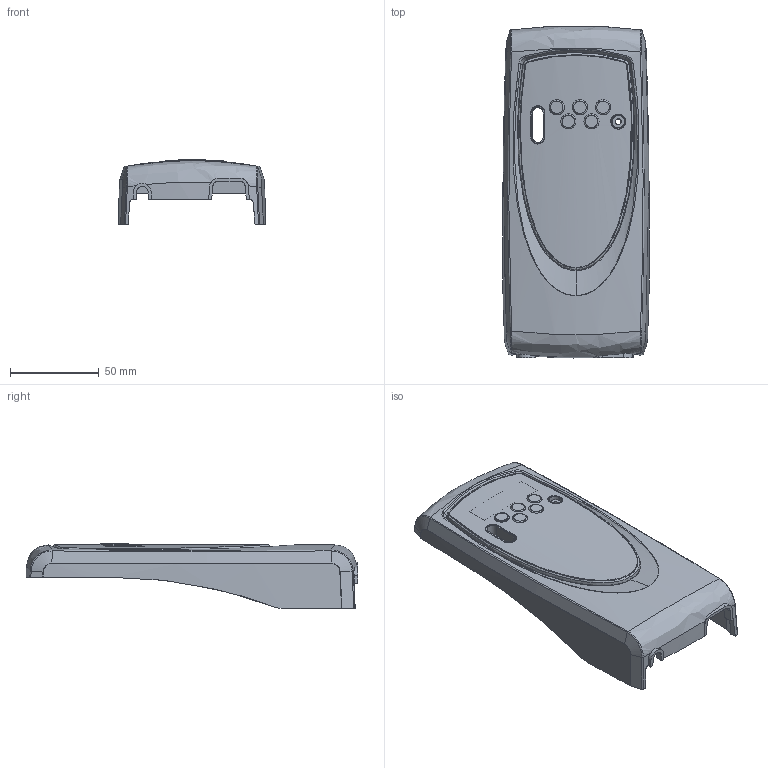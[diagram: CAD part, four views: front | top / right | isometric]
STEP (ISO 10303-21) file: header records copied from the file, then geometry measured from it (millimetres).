
FILE_DESCRIPTION((''),'2;1');
FILE_NAME('PK-SEQ-SK-B-FRONT-COVER','2006-12-19T',('summne01'),(''),'PRO/ENGINEER BY PARAMETRIC TECHNOLOGY CORPORATION, 2006320','PRO/ENGINEER BY PARAMETRIC TECHNOLOGY CORPORATION, 2006320','');
FILE_SCHEMA(('CONFIG_CONTROL_DESIGN'));
Length unit declared in the file: millimetre
Products named in the file (1): PK-SEQ-SK-B-FRONT-COVER
Bounding box: 82.65 x 186.81 x 36.27 mm (x, y, z)
Surface area: 58816.6 mm2 (no closed solid volume)
Topology: 0 solids, 5 shells, 182 faces, 514 edges, 338 vertices
Faces by surface type: bspline 65, cylinder 52, plane 51, cone 14
Entity records: 11004 total; most frequent: CARTESIAN_POINT 7071, ORIENTED_EDGE 934, EDGE_CURVE 514, DIRECTION 497, VERTEX_POINT 338, B_SPLINE_CURVE_WITH_KNOTS 296, EDGE_LOOP 209, FACE_OUTER_BOUND 182
